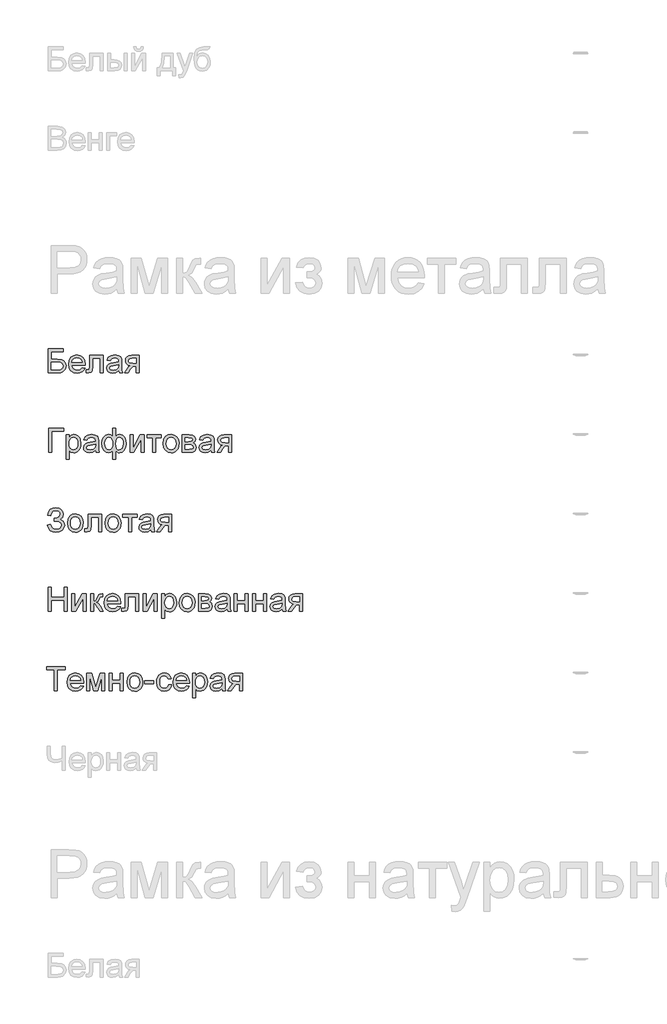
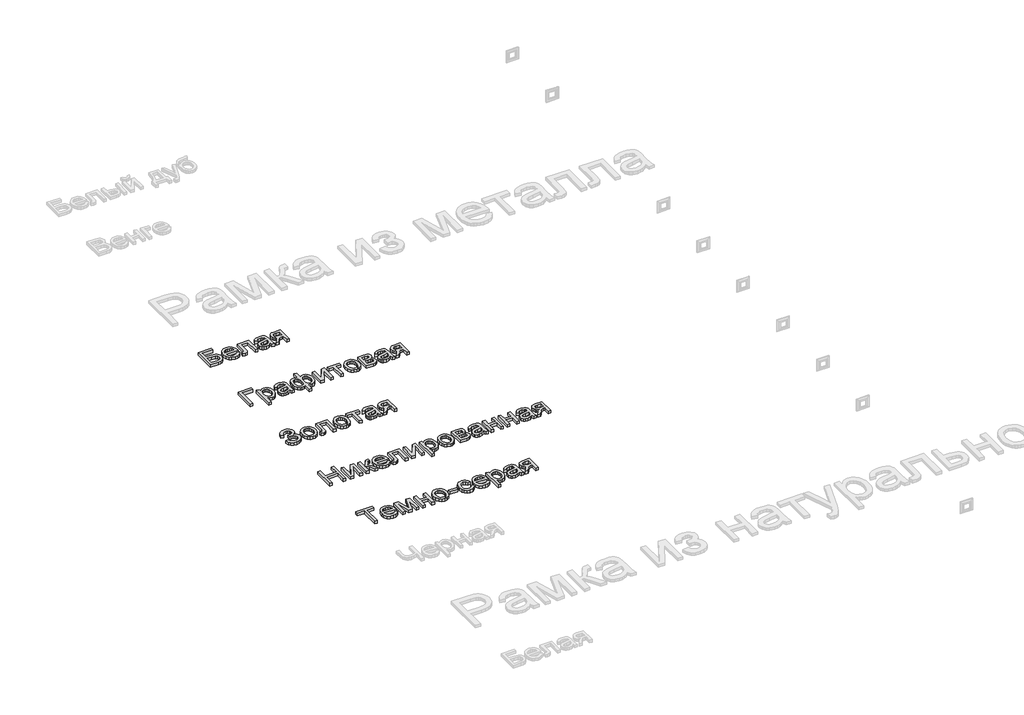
# One storey, part 109 of 168: 5 proxies.
"""IFC4 building model written with IfcOpenShell, lengths in millimetres."""

from ifc_helpers import new_model, si_unit, origin, origin_with_axes, place, context, project, spatial, polyline, outline, extrude, element, save

model = new_model("IFC4")

# Units and contexts
model_context = context("Model", 3, world=origin())
ifc_project = project(units=[si_unit("LENGTHUNIT", "METRE", prefix="MILLI")], contexts=[model_context])

# Site, building, storey
site = spatial("IfcSite", under=ifc_project)
building = spatial("IfcBuilding", under=site)
storey = spatial("IfcBuildingStorey", under=building, Name="Этаж 01", Elevation=0.0)

# Proxies
placement = place(None, origin())
element("IfcBuildingElementProxy", 1, Name="150", ObjectType="150", at=placement, inside=storey, context=model_context, shape_type="SweptSolid", body=[
    extrude(outline(polyline([(32882.6133883, -12897.7212163), (32976.791179, -12897.7212163), (32976.791179, -12916.5567745), (32901.4489464, -12916.5567745), (32901.4489464, -12961.2912251), (32936.7288298, -12961.2912251), (32967.8148584, -12965.1171979), (32978.2167218, -12970.6446248), (32986.3193227, -12979.5749603), (32991.53405, -12991.0712726), (32993.2722924, -13004.2966303), (32988.3242796, -13025.7625448), (32973.5538175, -13042.0781113), (32960.2824745, -13046.823789), (32940.1133441, -13048.4056816), (32882.6133883, -13048.4056816), (32882.6133883, -12897.7212163)]), holes=[polyline([(32901.4489464, -13029.5701234), (32941.8056013, -13029.5701234), (32956.0702257, -13028.015822), (32966.269754, -13023.3529177), (32972.3949892, -13015.5814105), (32974.4367343, -13004.7013005), (32969.7646329, -12989.9492325), (32956.7600044, -12982.0765578), (32928.3779085, -12980.1267833), (32901.4489464, -12980.1267833), (32901.4489464, -13029.5701234)])]), origin_with_axes(), (0.0, 0.0, 1.0), 20.0),
    extrude(outline(polyline([(33094.2926883, -13015.4434548), (33112.7603645, -13017.7978996), (33106.1062989, -13031.713036), (33095.4883048, -13042.1148995), (33081.1455055, -13048.5988196), (33063.3170243, -13050.7601263), (33041.2165134, -13047.0307226), (33024.2111682, -13035.8425114), (33013.3678464, -13017.9220597), (33009.7534058, -12993.9959345), (33013.4046346, -12969.2650674), (33024.358321, -12950.7698), (33041.13374, -12939.2366995), (33062.2501665, -12935.3923327), (33082.709004, -12939.2275025), (33099.0567601, -12950.7330118), (33109.7759218, -12969.191491), (33113.3489756, -12993.8855699), (33113.2386111, -12998.9623414), (33028.588964, -12998.9623414), (33031.8493181, -13013.0614189), (33039.4230887, -13023.4264941), (33050.3537825, -13029.8000497), (33063.6849063, -13031.9245682), (33082.1525825, -13027.9882308), (33094.2926883, -13015.4434548)]), holes=[polyline([(33028.588964, -12980.1267833), (33094.5134175, -12980.1267833), (33091.9658347, -12970.1755753), (33086.9718366, -12963.0570587), (33075.990559, -12956.4351828), (33062.1765901, -12954.2278908), (33049.4800628, -12955.9891259), (33038.9816303, -12961.272831), (33031.6837712, -12969.5087892), (33028.588964, -12980.1267833)])]), origin_with_axes(), (0.0, 0.0, 1.0), 20.0),
    extrude(outline(polyline([(33141.6023129, -12937.7467774), (33226.3623246, -12937.7467774), (33226.3623246, -13048.295317), (33207.5267664, -13048.295317), (33207.5267664, -12956.5823356), (33160.437871, -12956.5823356), (33160.437871, -13009.3734019), (33159.1686781, -13033.72719), (33152.1973143, -13044.0094917), (33135.716201, -13048.4056816), (33120.41231, -13047.4491884), (33120.41231, -13029.5701234), (33128.8368076, -13029.5701234), (33137.3532758, -13028.4112951), (33140.7561843, -13024.7324752), (33141.6023129, -13008.3065441), (33141.6023129, -12937.7467774)])), origin_with_axes(), (0.0, 0.0, 1.0), 20.0),
    extrude(outline(polyline([(33325.2490049, -13034.279013), (33306.9836638, -13047.0445182), (33286.8053364, -13050.7601263), (33271.0645855, -13048.5252432), (33259.45331, -13041.8205939), (33252.2934067, -13031.6394596), (33249.9067723, -13018.975122), (33253.5120158, -13004.0759012), (33262.9849772, -12993.2601705), (33276.1735467, -12987.079753), (33292.4707191, -12984.2470616), (33325.1386403, -12977.7723385), (33325.2490049, -12973.5784838), (33323.9522208, -12965.1723802), (33320.0618687, -12959.6725443), (33311.3614596, -12955.5890542), (33299.2397478, -12954.2278908), (33280.1834605, -12957.8515285), (33271.0967752, -12970.7090042), (33252.261217, -12968.3545594), (33260.4098032, -12949.9604597), (33276.8173402, -12939.1815172), (33301.667769, -12935.3923327), (33324.4948468, -12938.7400588), (33337.3891107, -12947.1461624), (33343.164858, -12959.9300617), (33344.084563, -12976.4111751), (33344.084563, -12999.8452582), (33345.0410562, -13032.5683617), (33348.7934526, -13048.4056816), (33329.9578944, -13048.4056816), (33325.2490049, -13034.279013)]), holes=[polyline([(33325.2490049, -12996.6078966), (33294.8619521, -13002.383644), (33278.6567502, -13005.4370645), (33271.3175044, -13010.4034715), (33268.7423304, -13017.6507468), (33274.3525308, -13027.841078), (33290.8152501, -13031.9245682), (33309.8715375, -13027.4180137), (33322.1587961, -13016.5103126), (33325.1386403, -13001.9421856), (33325.2490049, -12996.6078966)])]), origin_with_axes(), (0.0, 0.0, 1.0), 20.0),
    extrude(outline(polyline([(33454.7434672, -12937.7467774), (33454.7434672, -13048.4056816), (33435.907909, -13048.4056816), (33435.907909, -13006.0256757), (33425.6440014, -13006.0256757), (33411.6644855, -13008.4169087), (33398.5310983, -13024.4933519), (33383.5215129, -13048.4056816), (33361.7428988, -13048.4056816), (33380.6520333, -13018.1657816), (33389.0029546, -13007.3132627), (33396.6916883, -13002.4940086), (33383.8158185, -12998.5484742), (33374.7659214, -12991.0528785), (33369.4132384, -12981.0832765), (33367.6290107, -12969.7157228), (33370.0662289, -12956.8214589), (33377.3778836, -12946.6127335), (33389.3064573, -12939.9632664), (33405.5944326, -12937.7467774), (33454.7434672, -12937.7467774)]), holes=[polyline([(33435.907909, -12956.5823356), (33411.0758743, -12956.5823356), (33398.2505883, -12957.672186), (33390.9711233, -12960.9417372), (33386.4645689, -12971.1504626), (33388.1246364, -12978.32876), (33393.1048389, -12983.3089625), (33416.6308925, -12987.1901176), (33435.907909, -12987.1901176), (33435.907909, -12956.5823356)])]), origin_with_axes(), (0.0, 0.0, 1.0), 20.0),
])
element("IfcBuildingElementProxy", 2, Name="150", ObjectType="150", at=placement, inside=storey, context=model_context, shape_type="SweptSolid", body=[
    extrude(outline(polyline([(32884.967833, -13397.7212163), (32979.1456238, -13397.7212163), (32979.1456238, -13416.5567745), (32903.8033912, -13416.5567745), (32903.8033912, -13548.4056816), (32884.967833, -13548.4056816), (32884.967833, -13397.7212163)])), origin_with_axes(), (0.0, 0.0, 1.0), 20.0),
    extrude(outline(polyline([(32993.2722924, -13590.7856874), (32993.2722924, -13437.7467774), (33012.1078506, -13437.7467774), (33012.1078506, -13456.2144536), (33025.1308732, -13440.5978629), (33042.7156326, -13435.3923327), (33055.4535467, -13437.2133485), (33066.5911741, -13442.6763962), (33075.6594652, -13451.4503817), (33082.1893707, -13463.2042115), (33087.4500832, -13492.2301009), (33085.9647596, -13508.3387338), (33081.508789, -13522.7459124), (33074.2247255, -13534.7204713), (33064.2551234, -13543.5312451), (33052.6438479, -13548.952906), (33040.4347642, -13550.7601263), (33024.0456213, -13545.9224781), (33012.1078506, -13533.6904018), (33012.1078506, -13590.7856874), (32993.2722924, -13590.7856874)]), holes=[polyline([(33012.1078506, -13493.9591463), (33014.1449971, -13510.8449299), (33020.2564368, -13522.6539419), (33029.2741442, -13529.6069116), (33040.030094, -13531.9245682), (33050.9607878, -13529.5241382), (33060.2084214, -13522.3228481), (33066.5129991, -13510.0815747), (33068.614525, -13492.5611947), (33066.5635829, -13475.7673816), (33060.4107565, -13463.7928227), (33051.4068447, -13456.6191238), (33040.8026462, -13454.2278908), (33030.157061, -13456.7708751), (33020.8082598, -13464.399828), (33014.2829529, -13476.8756261), (33012.1078506, -13493.9591463)])]), origin_with_axes(), (0.0, 0.0, 1.0), 20.0),
    extrude(outline(polyline([(33179.2734292, -13534.279013), (33161.0080881, -13547.0445182), (33140.8297607, -13550.7601263), (33125.0890098, -13548.5252432), (33113.4777343, -13541.8205939), (33106.317831, -13531.6394596), (33103.9311966, -13518.975122), (33107.5364401, -13504.0759012), (33117.0094015, -13493.2601705), (33130.197971, -13487.079753), (33146.4951434, -13484.2470616), (33179.1630646, -13477.7723385), (33179.2734292, -13473.5784838), (33177.9766452, -13465.1723802), (33174.0862931, -13459.6725443), (33165.3858839, -13455.5890542), (33153.2641721, -13454.2278908), (33134.2078848, -13457.8515285), (33125.1211995, -13470.7090042), (33106.2856413, -13468.3545594), (33114.4342275, -13449.9604597), (33130.8417645, -13439.1815172), (33155.6921933, -13435.3923327), (33178.5192711, -13438.7400588), (33191.413535, -13447.1461624), (33197.1892823, -13459.9300617), (33198.1089873, -13476.4111751), (33198.1089873, -13499.8452582), (33199.0654805, -13532.5683617), (33202.8178769, -13548.4056816), (33183.9823187, -13548.4056816), (33179.2734292, -13534.279013)]), holes=[polyline([(33179.2734292, -13496.6078966), (33148.8863764, -13502.383644), (33132.6811745, -13505.4370645), (33125.3419287, -13510.4034715), (33122.7667547, -13517.6507468), (33128.3769552, -13527.841078), (33144.8396744, -13531.9245682), (33163.8959618, -13527.4180137), (33176.1832204, -13516.5103126), (33179.1630646, -13501.9421856), (33179.2734292, -13496.6078966)])]), origin_with_axes(), (0.0, 0.0, 1.0), 20.0),
    extrude(outline(polyline([(33287.5778886, -13397.7212163), (33306.4134467, -13397.7212163), (33306.4134467, -13448.3785671), (33318.3880057, -13438.6113001), (33332.4227038, -13435.3923327), (33348.9084157, -13439.4850198), (33361.5773519, -13451.7630814), (33369.6477632, -13470.2491517), (33372.3379003, -13492.9658649), (33369.4408295, -13516.3769554), (33360.7496174, -13534.8124418), (33347.7541859, -13546.7732052), (33331.9444572, -13550.7601263), (33320.4297507, -13548.9207164), (33306.4134467, -13538.8775379), (33306.4134467, -13590.7856874), (33287.5778886, -13590.7856874), (33287.5778886, -13538.8775379), (33275.5481473, -13547.7802822), (33261.3111141, -13550.7601263), (33245.5289765, -13546.9525477), (33231.8805545, -13535.5298117), (33222.4443813, -13517.0161503), (33219.2989903, -13491.9357953), (33222.1454772, -13469.8536785), (33230.684938, -13451.6527168), (33244.0344559, -13439.4574287), (33261.3111141, -13435.3923327), (33275.8976352, -13438.6113001), (33287.5778886, -13448.3785671), (33287.5778886, -13397.7212163)]), holes=[polyline([(33238.1345484, -13491.5311251), (33240.0199436, -13510.0079983), (33245.6761293, -13522.4700009), (33254.1282182, -13529.5609264), (33264.4013229, -13531.9245682), (33274.6238438, -13529.5747219), (33281.8941117, -13522.5251832), (33286.2397178, -13510.775952), (33287.6882532, -13494.3270283), (33286.1661414, -13476.7836556), (33281.5998061, -13464.2526752), (33273.9616562, -13456.7340869), (33263.2241005, -13454.2278908), (33253.1441338, -13456.6743061), (33245.1243063, -13464.0135519), (33239.8819879, -13475.7857757), (33238.1345484, -13491.5311251)]), polyline([(33306.3030821, -13493.4073233), (33307.8711791, -13512.4774062), (33312.5754701, -13524.0702876), (33319.643403, -13529.960998), (33328.3024254, -13531.9245682), (33337.9823204, -13529.5103426), (33346.1263081, -13522.2676658), (33351.6583336, -13509.9390204), (33353.5023421, -13492.2668891), (33351.8008879, -13475.5098642), (33346.6965252, -13463.6456699), (33338.925018, -13456.5823356), (33329.2221304, -13454.2278908), (33319.2295357, -13456.6789046), (33312.0604353, -13464.031946), (33307.7424204, -13476.2778179), (33306.3030821, -13493.4073233)])]), origin_with_axes(), (0.0, 0.0, 1.0), 20.0),
    extrude(outline(polyline([(33395.8823479, -13437.7467774), (33414.7179061, -13437.7467774), (33414.7179061, -13522.1389071), (33460.9974611, -13437.7467774), (33485.3512492, -13437.7467774), (33485.3512492, -13548.4056816), (33466.515691, -13548.4056816), (33466.515691, -13464.5285867), (33420.5304416, -13548.4056816), (33395.8823479, -13548.4056816), (33395.8823479, -13437.7467774)])), origin_with_axes(), (0.0, 0.0, 1.0), 20.0),
    extrude(outline(polyline([(33504.1868073, -13437.7467774), (33593.6557086, -13437.7467774), (33593.6557086, -13456.5823356), (33558.339037, -13456.5823356), (33558.339037, -13548.4056816), (33539.5034789, -13548.4056816), (33539.5034789, -13456.5823356), (33504.1868073, -13456.5823356), (33504.1868073, -13437.7467774)])), origin_with_axes(), (0.0, 0.0, 1.0), 20.0),
    extrude(outline(polyline([(33605.4279324, -13493.0762295), (33609.5022255, -13466.3955878), (33621.7251048, -13447.6428031), (33636.8266607, -13438.4549503), (33654.9080607, -13435.3923327), (33674.6955136, -13439.1217364), (33690.5006438, -13450.3099476), (33700.8611205, -13468.0740494), (33704.3146127, -13491.5311251), (33702.7879024, -13510.5598213), (33698.2077716, -13525.0451749), (33690.7075774, -13535.8930952), (33680.4206771, -13544.0094917), (33668.2023963, -13549.0724677), (33654.9080607, -13550.7601263), (33634.8814846, -13547.0445182), (33619.0947485, -13535.8976937), (33608.8446364, -13517.7611114), (33605.4279324, -13493.0762295)]), holes=[polyline([(33624.2634906, -13493.0394413), (33626.4431914, -13510.0861732), (33632.9822938, -13522.2308776), (33642.8231372, -13529.5011455), (33654.9080607, -13531.9245682), (33666.937802, -13529.48735), (33676.7602513, -13522.1756953), (33683.2993537, -13509.8700426), (33685.4790545, -13492.4508301), (33683.2855582, -13475.9007388), (33676.705069, -13463.9215814), (33666.8688241, -13456.6513134), (33654.9080607, -13454.2278908), (33642.8231372, -13456.6421164), (33632.9822938, -13463.8847932), (33626.4431914, -13476.0019064), (33624.2634906, -13493.0394413)])]), origin_with_axes(), (0.0, 0.0, 1.0), 20.0),
    extrude(outline(polyline([(33725.5046156, -13437.7467774), (33767.0017047, -13437.7467774), (33789.7552061, -13440.2667691), (33802.5574995, -13449.5006072), (33807.9101825, -13465.5954445), (33804.672821, -13478.6736494), (33794.9239481, -13487.999458), (33807.5790887, -13498.2081833), (33812.6190721, -13515.9584896), (33809.4276958, -13530.3150845), (33801.8401296, -13540.4226423), (33789.8287825, -13546.4099217), (33773.3660632, -13548.4056816), (33725.5046156, -13548.4056816), (33725.5046156, -13437.7467774)]), holes=[polyline([(33744.3401738, -13480.1267833), (33762.9550027, -13480.1267833), (33778.314076, -13479.1702901), (33785.7820805, -13475.3443173), (33789.0746244, -13468.4281358), (33787.6306876, -13462.8087383), (33783.2988771, -13459.1942977), (33763.5436139, -13456.5823356), (33744.3401738, -13456.5823356), (33744.3401738, -13480.1267833)]), polyline([(33744.3401738, -13529.5701234), (33767.4431631, -13529.5701234), (33787.9341902, -13526.167215), (33792.1740302, -13521.5273033), (33793.7835139, -13514.4133852), (33790.5645465, -13505.345094), (33782.176837, -13500.0659874), (33765.6037531, -13498.9623414), (33744.3401738, -13498.9623414), (33744.3401738, -13529.5701234)])]), origin_with_axes(), (0.0, 0.0, 1.0), 20.0),
    extrude(outline(polyline([(33906.7968628, -13534.279013), (33888.5315218, -13547.0445182), (33868.3531944, -13550.7601263), (33852.6124435, -13548.5252432), (33841.001168, -13541.8205939), (33833.8412647, -13531.6394596), (33831.4546302, -13518.975122), (33835.0598738, -13504.0759012), (33844.5328352, -13493.2601705), (33857.7214047, -13487.079753), (33874.0185771, -13484.2470616), (33906.6864982, -13477.7723385), (33906.7968628, -13473.5784838), (33905.5000788, -13465.1723802), (33901.6097267, -13459.6725443), (33892.9093175, -13455.5890542), (33880.7876058, -13454.2278908), (33861.7313184, -13457.8515285), (33852.6446332, -13470.7090042), (33833.809075, -13468.3545594), (33841.9576612, -13449.9604597), (33858.3651982, -13439.1815172), (33883.215627, -13435.3923327), (33906.0427048, -13438.7400588), (33918.9369687, -13447.1461624), (33924.712716, -13459.9300617), (33925.632421, -13476.4111751), (33925.632421, -13499.8452582), (33926.5889142, -13532.5683617), (33930.3413105, -13548.4056816), (33911.5057524, -13548.4056816), (33906.7968628, -13534.279013)]), holes=[polyline([(33906.7968628, -13496.6078966), (33876.40981, -13502.383644), (33860.2046082, -13505.4370645), (33852.8653624, -13510.4034715), (33850.2901884, -13517.6507468), (33855.9003888, -13527.841078), (33872.3631081, -13531.9245682), (33891.4193954, -13527.4180137), (33903.7066541, -13516.5103126), (33906.6864982, -13501.9421856), (33906.7968628, -13496.6078966)])]), origin_with_axes(), (0.0, 0.0, 1.0), 20.0),
    extrude(outline(polyline([(34036.2913251, -13437.7467774), (34036.2913251, -13548.4056816), (34017.455767, -13548.4056816), (34017.455767, -13506.0256757), (34007.1918593, -13506.0256757), (33993.2123435, -13508.4169087), (33980.0789563, -13524.4933519), (33965.0693709, -13548.4056816), (33943.2907568, -13548.4056816), (33962.1998913, -13518.1657816), (33970.5508126, -13507.3132627), (33978.2395463, -13502.4940086), (33965.3636765, -13498.5484742), (33956.3137794, -13491.0528785), (33950.9610964, -13481.0832765), (33949.1768687, -13469.7157228), (33951.6140869, -13456.8214589), (33958.9257416, -13446.6127335), (33970.8543153, -13439.9632664), (33987.1422906, -13437.7467774), (34036.2913251, -13437.7467774)]), holes=[polyline([(34017.455767, -13456.5823356), (33992.6237323, -13456.5823356), (33979.7984463, -13457.672186), (33972.5189813, -13460.9417372), (33968.0124268, -13471.1504626), (33969.6724943, -13478.32876), (33974.6526969, -13483.3089625), (33998.1787504, -13487.1901176), (34017.455767, -13487.1901176), (34017.455767, -13456.5823356)])]), origin_with_axes(), (0.0, 0.0, 1.0), 20.0),
])
element("IfcBuildingElementProxy", 3, Name="150", ObjectType="150", at=placement, inside=storey, context=model_context, shape_type="SweptSolid", body=[
    extrude(outline(polyline([(32875.550054, -14006.0256757), (32894.3856121, -14001.3167862), (32905.9555009, -14021.7158428), (32916.8861946, -14029.3723868), (32930.879506, -14031.9245682), (32945.0567584, -14030.0069833), (32955.8770876, -14024.2542286), (32962.7334883, -14015.7883442), (32965.0189552, -14005.7313701), (32962.5219562, -13995.1961495), (32955.030959, -13987.0613589), (32943.2357426, -13981.8604272), (32927.8260855, -13980.1267833), (32917.9300598, -13980.1267833), (32917.9300598, -13961.2912251), (32939.2488214, -13959.7645148), (32952.2902382, -13951.9654165), (32957.9556209, -13937.7099892), (32956.0702257, -13928.8394346), (32950.41404, -13921.2104817), (32941.5388869, -13915.9543677), (32929.9965893, -13914.2023297), (32910.774755, -13919.591801), (32899.7750833, -13933.8840165), (32896.7400569, -13947.1645565), (32877.9044987, -13942.455667), (32883.7561217, -13921.8542752), (32894.358021, -13907.1389954), (32909.7101965, -13898.3098275), (32929.8126483, -13895.3667716), (32949.2046279, -13898.4247907), (32964.1176443, -13907.5988479), (32973.6227954, -13920.8655924), (32976.791179, -13936.201673), (32971.8615603, -13954.8440931), (32957.0727041, -13968.7592296), (32967.5481439, -13973.5830823), (32976.1657796, -13981.7270699), (32981.9323299, -13992.4922168), (32983.8545133, -14005.1795471), (32980.1664963, -14023.0172254), (32969.1024453, -14037.6819214), (32951.9499473, -14047.4905751), (32929.9965893, -14050.7601263), (32910.8943167, -14047.9642232), (32895.4524699, -14039.5765137), (32883.671049, -14025.5969979), (32875.550054, -14006.0256757)])), origin_with_axes(), (0.0, 0.0, 1.0), 20.0),
    extrude(outline(polyline([(33002.6900715, -13993.0762295), (33006.7643646, -13966.3955878), (33018.9872439, -13947.6428031), (33034.0887998, -13938.4549503), (33052.1701999, -13935.3923327), (33071.9576527, -13939.1217364), (33087.7627829, -13950.3099476), (33098.1232596, -13968.0740494), (33101.5767518, -13991.5311251), (33100.0500415, -14010.5598213), (33095.4699107, -14025.0451749), (33087.9697165, -14035.8930952), (33077.6828162, -14044.0094917), (33065.4645355, -14049.0724677), (33052.1701999, -14050.7601263), (33032.1436237, -14047.0445182), (33016.3568876, -14035.8976937), (33006.1067755, -14017.7611114), (33002.6900715, -13993.0762295)]), holes=[polyline([(33021.5256297, -13993.0394413), (33023.7053305, -14010.0861732), (33030.2444329, -14022.2308776), (33040.0852763, -14029.5011455), (33052.1701999, -14031.9245682), (33064.1999411, -14029.48735), (33074.0223904, -14022.1756953), (33080.5614928, -14009.8700426), (33082.7411937, -13992.4508301), (33080.5476973, -13975.9007388), (33073.9672081, -13963.9215814), (33064.1309632, -13956.6513134), (33052.1701999, -13954.2278908), (33040.0852763, -13956.6421164), (33030.2444329, -13963.8847932), (33023.7053305, -13976.0019064), (33021.5256297, -13993.0394413)])]), origin_with_axes(), (0.0, 0.0, 1.0), 20.0),
    extrude(outline(polyline([(33132.1845338, -13937.7467774), (33216.9445455, -13937.7467774), (33216.9445455, -14048.295317), (33198.1089873, -14048.295317), (33198.1089873, -13956.5823356), (33151.020092, -13956.5823356), (33151.020092, -14009.3734019), (33149.7508991, -14033.72719), (33142.7795353, -14044.0094917), (33126.2984219, -14048.4056816), (33110.9945309, -14047.4491884), (33110.9945309, -14029.5701234), (33119.4190286, -14029.5701234), (33127.9354968, -14028.4112951), (33131.3384052, -14024.7324752), (33132.1845338, -14008.3065441), (33132.1845338, -13937.7467774)])), origin_with_axes(), (0.0, 0.0, 1.0), 20.0),
    extrude(outline(polyline([(33240.4889932, -13993.0762295), (33244.5632863, -13966.3955878), (33256.7861656, -13947.6428031), (33271.8877215, -13938.4549503), (33289.9691215, -13935.3923327), (33309.7565743, -13939.1217364), (33325.5617046, -13950.3099476), (33335.9221813, -13968.0740494), (33339.3756735, -13991.5311251), (33337.8489632, -14010.5598213), (33333.2688324, -14025.0451749), (33325.7686382, -14035.8930952), (33315.4817379, -14044.0094917), (33303.2634571, -14049.0724677), (33289.9691215, -14050.7601263), (33269.9425454, -14047.0445182), (33254.1558093, -14035.8976937), (33243.9056972, -14017.7611114), (33240.4889932, -13993.0762295)]), holes=[polyline([(33259.3245513, -13993.0394413), (33261.5042522, -14010.0861732), (33268.0433546, -14022.2308776), (33277.884198, -14029.5011455), (33289.9691215, -14031.9245682), (33301.9988628, -14029.48735), (33311.821312, -14022.1756953), (33318.3604145, -14009.8700426), (33320.5401153, -13992.4508301), (33318.3466189, -13975.9007388), (33311.7661297, -13963.9215814), (33301.9298849, -13956.6513134), (33289.9691215, -13954.2278908), (33277.884198, -13956.6421164), (33268.0433546, -13963.8847932), (33261.5042522, -13976.0019064), (33259.3245513, -13993.0394413)])]), origin_with_axes(), (0.0, 0.0, 1.0), 20.0),
    extrude(outline(polyline([(33351.1478973, -13937.7467774), (33440.6167986, -13937.7467774), (33440.6167986, -13956.5823356), (33405.300127, -13956.5823356), (33405.300127, -14048.4056816), (33386.4645689, -14048.4056816), (33386.4645689, -13956.5823356), (33351.1478973, -13956.5823356), (33351.1478973, -13937.7467774)])), origin_with_axes(), (0.0, 0.0, 1.0), 20.0),
    extrude(outline(polyline([(33527.731255, -14034.279013), (33509.465914, -14047.0445182), (33489.2875865, -14050.7601263), (33473.5468357, -14048.5252432), (33461.9355602, -14041.8205939), (33454.7756568, -14031.6394596), (33452.3890224, -14018.975122), (33455.994266, -14004.0759012), (33465.4672273, -13993.2601705), (33478.6557969, -13987.079753), (33494.9529692, -13984.2470616), (33527.6208904, -13977.7723385), (33527.731255, -13973.5784838), (33526.434471, -13965.1723802), (33522.5441189, -13959.6725443), (33513.8437097, -13955.5890542), (33501.721998, -13954.2278908), (33482.6657106, -13957.8515285), (33473.5790253, -13970.7090042), (33454.7434672, -13968.3545594), (33462.8920534, -13949.9604597), (33479.2995904, -13939.1815172), (33504.1500191, -13935.3923327), (33526.9770969, -13938.7400588), (33539.8713609, -13947.1461624), (33545.6471082, -13959.9300617), (33546.5668132, -13976.4111751), (33546.5668132, -13999.8452582), (33547.5233064, -14032.5683617), (33551.2757027, -14048.4056816), (33532.4401446, -14048.4056816), (33527.731255, -14034.279013)]), holes=[polyline([(33527.731255, -13996.6078966), (33497.3442022, -14002.383644), (33481.1390003, -14005.4370645), (33473.7997545, -14010.4034715), (33471.2245806, -14017.6507468), (33476.834781, -14027.841078), (33493.2975003, -14031.9245682), (33512.3537876, -14027.4180137), (33524.6410463, -14016.5103126), (33527.6208904, -14001.9421856), (33527.731255, -13996.6078966)])]), origin_with_axes(), (0.0, 0.0, 1.0), 20.0),
    extrude(outline(polyline([(33657.2257173, -13937.7467774), (33657.2257173, -14048.4056816), (33638.3901592, -14048.4056816), (33638.3901592, -14006.0256757), (33628.1262515, -14006.0256757), (33614.1467357, -14008.4169087), (33601.0133485, -14024.4933519), (33586.0037631, -14048.4056816), (33564.2251489, -14048.4056816), (33583.1342835, -14018.1657816), (33591.4852048, -14007.3132627), (33599.1739385, -14002.4940086), (33586.2980686, -13998.5484742), (33577.2481716, -13991.0528785), (33571.8954885, -13981.0832765), (33570.1112609, -13969.7157228), (33572.5484791, -13956.8214589), (33579.8601337, -13946.6127335), (33591.7887074, -13939.9632664), (33608.0766828, -13937.7467774), (33657.2257173, -13937.7467774)]), holes=[polyline([(33638.3901592, -13956.5823356), (33613.5581245, -13956.5823356), (33600.7328384, -13957.672186), (33593.4533735, -13960.9417372), (33588.946819, -13971.1504626), (33590.6068865, -13978.32876), (33595.587089, -13983.3089625), (33619.1131426, -13987.1901176), (33638.3901592, -13987.1901176), (33638.3901592, -13956.5823356)])]), origin_with_axes(), (0.0, 0.0, 1.0), 20.0),
])
element("IfcBuildingElementProxy", 4, Name="150", ObjectType="150", at=placement, inside=storey, context=model_context, shape_type="SweptSolid", body=[
    extrude(outline(polyline([(32882.6133883, -14548.4056816), (32882.6133883, -14397.7212163), (32901.4489464, -14397.7212163), (32901.4489464, -14458.9367803), (32981.5000686, -14458.9367803), (32981.5000686, -14397.7212163), (33000.3356267, -14397.7212163), (33000.3356267, -14548.4056816), (32981.5000686, -14548.4056816), (32981.5000686, -14477.7723385), (32901.4489464, -14477.7723385), (32901.4489464, -14548.4056816), (32882.6133883, -14548.4056816)])), origin_with_axes(), (0.0, 0.0, 1.0), 20.0),
    extrude(outline(polyline([(33030.9434087, -14437.7467774), (33049.7789669, -14437.7467774), (33049.7789669, -14522.1389071), (33096.0585219, -14437.7467774), (33120.41231, -14437.7467774), (33120.41231, -14548.4056816), (33101.5767518, -14548.4056816), (33101.5767518, -14464.5285867), (33055.5915024, -14548.4056816), (33030.9434087, -14548.4056816), (33030.9434087, -14437.7467774)])), origin_with_axes(), (0.0, 0.0, 1.0), 20.0),
    extrude(outline(polyline([(33148.6656472, -14437.7467774), (33167.5012053, -14437.7467774), (33167.5012053, -14484.8356728), (33180.1195578, -14481.4511584), (33190.4570418, -14461.7326835), (33199.0470864, -14444.7181412), (33206.6254555, -14439.1815172), (33220.4026362, -14437.7467774), (33224.0078798, -14437.7467774), (33224.0078798, -14456.6927002), (33218.9311083, -14456.5823356), (33209.7340584, -14458.5688983), (33203.2593353, -14470.9665216), (33195.6625721, -14484.3758203), (33185.0123883, -14490.9425139), (33196.8949768, -14498.2725627), (33208.556836, -14513.7144094), (33228.7167693, -14548.4056816), (33207.3060372, -14548.4056816), (33187.5507741, -14514.4501734), (33177.6179602, -14500.0843815), (33167.5012053, -14496.6078966), (33167.5012053, -14548.4056816), (33148.6656472, -14548.4056816), (33148.6656472, -14437.7467774)])), origin_with_axes(), (0.0, 0.0, 1.0), 20.0),
    extrude(outline(polyline([(33317.9649414, -14515.4434548), (33336.4326175, -14517.7978996), (33329.7785519, -14531.713036), (33319.1605579, -14542.1148995), (33304.8177586, -14548.5988196), (33286.9892774, -14550.7601263), (33264.8887665, -14547.0307226), (33247.8834213, -14535.8425114), (33237.0400995, -14517.9220597), (33233.4256589, -14493.9959345), (33237.0768877, -14469.2650674), (33248.0305741, -14450.7698), (33264.8059931, -14439.2366995), (33285.9224196, -14435.3923327), (33306.381257, -14439.2275025), (33322.7290132, -14450.7330118), (33333.4481748, -14469.191491), (33337.0212287, -14493.8855699), (33336.9108641, -14498.9623414), (33252.261217, -14498.9623414), (33255.5215712, -14513.0614189), (33263.0953418, -14523.4264941), (33274.0260356, -14529.8000497), (33287.3571594, -14531.9245682), (33305.8248355, -14527.9882308), (33317.9649414, -14515.4434548)]), holes=[polyline([(33252.261217, -14480.1267833), (33318.1856706, -14480.1267833), (33315.6380877, -14470.1755753), (33310.6440897, -14463.0570587), (33299.6628121, -14456.4351828), (33285.8488432, -14454.2278908), (33273.1523158, -14455.9891259), (33262.6538834, -14461.272831), (33255.3560243, -14469.5087892), (33252.261217, -14480.1267833)])]), origin_with_axes(), (0.0, 0.0, 1.0), 20.0),
    extrude(outline(polyline([(33365.2745659, -14437.7467774), (33450.0345776, -14437.7467774), (33450.0345776, -14548.295317), (33431.1990195, -14548.295317), (33431.1990195, -14456.5823356), (33384.1101241, -14456.5823356), (33384.1101241, -14509.3734019), (33382.8409312, -14533.72719), (33375.8695674, -14544.0094917), (33359.388454, -14548.4056816), (33344.084563, -14547.4491884), (33344.084563, -14529.5701234), (33352.5090607, -14529.5701234), (33361.0255289, -14528.4112951), (33364.4284374, -14524.7324752), (33365.2745659, -14508.3065441), (33365.2745659, -14437.7467774)])), origin_with_axes(), (0.0, 0.0, 1.0), 20.0),
    extrude(outline(polyline([(33478.2879149, -14437.7467774), (33497.123473, -14437.7467774), (33497.123473, -14522.1389071), (33543.403028, -14437.7467774), (33567.7568161, -14437.7467774), (33567.7568161, -14548.4056816), (33548.9212579, -14548.4056816), (33548.9212579, -14464.5285867), (33502.9360085, -14548.4056816), (33478.2879149, -14548.4056816), (33478.2879149, -14437.7467774)])), origin_with_axes(), (0.0, 0.0, 1.0), 20.0),
    extrude(outline(polyline([(33596.0101533, -14590.7856874), (33596.0101533, -14437.7467774), (33614.8457115, -14437.7467774), (33614.8457115, -14456.2144536), (33627.8687341, -14440.5978629), (33645.4534935, -14435.3923327), (33658.1914076, -14437.2133485), (33669.329035, -14442.6763962), (33678.3973261, -14451.4503817), (33684.9272316, -14463.2042115), (33690.1879441, -14492.2301009), (33688.7026205, -14508.3387338), (33684.2466499, -14522.7459124), (33676.9625864, -14534.7204713), (33666.9929843, -14543.5312451), (33655.3817088, -14548.952906), (33643.1726251, -14550.7601263), (33626.7834822, -14545.9224781), (33614.8457115, -14533.6904018), (33614.8457115, -14590.7856874), (33596.0101533, -14590.7856874)]), holes=[polyline([(33614.8457115, -14493.9591463), (33616.882858, -14510.8449299), (33622.9942977, -14522.6539419), (33632.0120051, -14529.6069116), (33642.7679549, -14531.9245682), (33653.6986487, -14529.5241382), (33662.9462823, -14522.3228481), (33669.25086, -14510.0815747), (33671.3523859, -14492.5611947), (33669.3014438, -14475.7673816), (33663.1486174, -14463.7928227), (33654.1447056, -14456.6191238), (33643.5405071, -14454.2278908), (33632.8949219, -14456.7708751), (33623.5461207, -14464.399828), (33617.0208138, -14476.8756261), (33614.8457115, -14493.9591463)])]), origin_with_axes(), (0.0, 0.0, 1.0), 20.0),
    extrude(outline(polyline([(33706.6690575, -14493.0762295), (33710.7433506, -14466.3955878), (33722.9662299, -14447.6428031), (33738.0677858, -14438.4549503), (33756.1491858, -14435.3923327), (33775.9366386, -14439.1217364), (33791.7417689, -14450.3099476), (33802.1022455, -14468.0740494), (33805.5557378, -14491.5311251), (33804.0290275, -14510.5598213), (33799.4488967, -14525.0451749), (33791.9487025, -14535.8930952), (33781.6618022, -14544.0094917), (33769.4435214, -14549.0724677), (33756.1491858, -14550.7601263), (33736.1226097, -14547.0445182), (33720.3358736, -14535.8976937), (33710.0857615, -14517.7611114), (33706.6690575, -14493.0762295)]), holes=[polyline([(33725.5046156, -14493.0394413), (33727.6843164, -14510.0861732), (33734.2234189, -14522.2308776), (33744.0642623, -14529.5011455), (33756.1491858, -14531.9245682), (33768.1789271, -14529.48735), (33778.0013763, -14522.1756953), (33784.5404788, -14509.8700426), (33786.7201796, -14492.4508301), (33784.5266832, -14475.9007388), (33777.946194, -14463.9215814), (33768.1099492, -14456.6513134), (33756.1491858, -14454.2278908), (33744.0642623, -14456.6421164), (33734.2234189, -14463.8847932), (33727.6843164, -14476.0019064), (33725.5046156, -14493.0394413)])]), origin_with_axes(), (0.0, 0.0, 1.0), 20.0),
    extrude(outline(polyline([(33826.7457407, -14437.7467774), (33868.2428298, -14437.7467774), (33890.9963312, -14440.2667691), (33903.7986246, -14449.5006072), (33909.1513076, -14465.5954445), (33905.9139461, -14478.6736494), (33896.1650732, -14487.999458), (33908.8202138, -14498.2081833), (33913.8601972, -14515.9584896), (33910.6688208, -14530.3150845), (33903.0812547, -14540.4226423), (33891.0699076, -14546.4099217), (33874.6071883, -14548.4056816), (33826.7457407, -14548.4056816), (33826.7457407, -14437.7467774)]), holes=[polyline([(33845.5812988, -14480.1267833), (33864.1961278, -14480.1267833), (33879.5552011, -14479.1702901), (33887.0232056, -14475.3443173), (33890.3157495, -14468.4281358), (33888.8718126, -14462.8087383), (33884.5400021, -14459.1942977), (33864.784739, -14456.5823356), (33845.5812988, -14456.5823356), (33845.5812988, -14480.1267833)]), polyline([(33845.5812988, -14529.5701234), (33868.6842881, -14529.5701234), (33889.1753153, -14526.167215), (33893.4151553, -14521.5273033), (33895.024639, -14514.4133852), (33891.8056715, -14505.345094), (33883.4179621, -14500.0659874), (33866.8448782, -14498.9623414), (33845.5812988, -14498.9623414), (33845.5812988, -14529.5701234)])]), origin_with_axes(), (0.0, 0.0, 1.0), 20.0),
    extrude(outline(polyline([(34008.0379879, -14534.279013), (33989.7726469, -14547.0445182), (33969.5943194, -14550.7601263), (33953.8535686, -14548.5252432), (33942.2422931, -14541.8205939), (33935.0823898, -14531.6394596), (33932.6957553, -14518.975122), (33936.3009989, -14504.0759012), (33945.7739602, -14493.2601705), (33958.9625298, -14487.079753), (33975.2597021, -14484.2470616), (34007.9276233, -14477.7723385), (34008.0379879, -14473.5784838), (34006.7412039, -14465.1723802), (34002.8508518, -14459.6725443), (33994.1504426, -14455.5890542), (33982.0287309, -14454.2278908), (33962.9724435, -14457.8515285), (33953.8857582, -14470.7090042), (33935.0502001, -14468.3545594), (33943.1987863, -14449.9604597), (33959.6063233, -14439.1815172), (33984.456752, -14435.3923327), (34007.2838298, -14438.7400588), (34020.1780938, -14447.1461624), (34025.9538411, -14459.9300617), (34026.8735461, -14476.4111751), (34026.8735461, -14499.8452582), (34027.8300393, -14532.5683617), (34031.5824356, -14548.4056816), (34012.7468775, -14548.4056816), (34008.0379879, -14534.279013)]), holes=[polyline([(34008.0379879, -14496.6078966), (33977.6509351, -14502.383644), (33961.4457332, -14505.4370645), (33954.1064874, -14510.4034715), (33951.5313135, -14517.6507468), (33957.1415139, -14527.841078), (33973.6042332, -14531.9245682), (33992.6605205, -14527.4180137), (34004.9477792, -14516.5103126), (34007.9276233, -14501.9421856), (34008.0379879, -14496.6078966)])]), origin_with_axes(), (0.0, 0.0, 1.0), 20.0),
    extrude(outline(polyline([(34052.7724385, -14437.7467774), (34071.6079967, -14437.7467774), (34071.6079967, -14480.1267833), (34121.0513368, -14480.1267833), (34121.0513368, -14437.7467774), (34139.886895, -14437.7467774), (34139.886895, -14548.4056816), (34121.0513368, -14548.4056816), (34121.0513368, -14498.9623414), (34071.6079967, -14498.9623414), (34071.6079967, -14548.4056816), (34052.7724385, -14548.4056816), (34052.7724385, -14437.7467774)])), origin_with_axes(), (0.0, 0.0, 1.0), 20.0),
    extrude(outline(polyline([(34168.1402322, -14437.7467774), (34186.9757904, -14437.7467774), (34186.9757904, -14480.1267833), (34236.4191305, -14480.1267833), (34236.4191305, -14437.7467774), (34255.2546887, -14437.7467774), (34255.2546887, -14548.4056816), (34236.4191305, -14548.4056816), (34236.4191305, -14498.9623414), (34186.9757904, -14498.9623414), (34186.9757904, -14548.4056816), (34168.1402322, -14548.4056816), (34168.1402322, -14437.7467774)])), origin_with_axes(), (0.0, 0.0, 1.0), 20.0),
    extrude(outline(polyline([(34354.141369, -14534.279013), (34335.8760279, -14547.0445182), (34315.6977005, -14550.7601263), (34299.9569496, -14548.5252432), (34288.3456741, -14541.8205939), (34281.1857708, -14531.6394596), (34278.7991364, -14518.975122), (34282.4043799, -14504.0759012), (34291.8773413, -14493.2601705), (34305.0659108, -14487.079753), (34321.3630832, -14484.2470616), (34354.0310044, -14477.7723385), (34354.141369, -14473.5784838), (34352.8445849, -14465.1723802), (34348.9542328, -14459.6725443), (34340.2538237, -14455.5890542), (34328.1321119, -14454.2278908), (34309.0758246, -14457.8515285), (34299.9891393, -14470.7090042), (34281.1535811, -14468.3545594), (34289.3021673, -14449.9604597), (34305.7097043, -14439.1815172), (34330.5601331, -14435.3923327), (34353.3872109, -14438.7400588), (34366.2814748, -14447.1461624), (34372.0572221, -14459.9300617), (34372.9769271, -14476.4111751), (34372.9769271, -14499.8452582), (34373.9334203, -14532.5683617), (34377.6858167, -14548.4056816), (34358.8502585, -14548.4056816), (34354.141369, -14534.279013)]), holes=[polyline([(34354.141369, -14496.6078966), (34323.7543162, -14502.383644), (34307.5491143, -14505.4370645), (34300.2098685, -14510.4034715), (34297.6346945, -14517.6507468), (34303.2448949, -14527.841078), (34319.7076142, -14531.9245682), (34338.7639016, -14527.4180137), (34351.0511602, -14516.5103126), (34354.0310044, -14501.9421856), (34354.141369, -14496.6078966)])]), origin_with_axes(), (0.0, 0.0, 1.0), 20.0),
    extrude(outline(polyline([(34483.6358313, -14437.7467774), (34483.6358313, -14548.4056816), (34464.8002731, -14548.4056816), (34464.8002731, -14506.0256757), (34454.5363655, -14506.0256757), (34440.5568496, -14508.4169087), (34427.4234624, -14524.4933519), (34412.413877, -14548.4056816), (34390.6352629, -14548.4056816), (34409.5443975, -14518.1657816), (34417.8953187, -14507.3132627), (34425.5840524, -14502.4940086), (34412.7081826, -14498.5484742), (34403.6582855, -14491.0528785), (34398.3056025, -14481.0832765), (34396.5213748, -14469.7157228), (34398.958593, -14456.8214589), (34406.2702477, -14446.6127335), (34418.1988214, -14439.9632664), (34434.4867967, -14437.7467774), (34483.6358313, -14437.7467774)]), holes=[polyline([(34464.8002731, -14456.5823356), (34439.9682385, -14456.5823356), (34427.1429524, -14457.672186), (34419.8634874, -14460.9417372), (34415.356933, -14471.1504626), (34417.0170005, -14478.32876), (34421.997203, -14483.3089625), (34445.5232566, -14487.1901176), (34464.8002731, -14487.1901176), (34464.8002731, -14456.5823356)])]), origin_with_axes(), (0.0, 0.0, 1.0), 20.0),
])
element("IfcBuildingElementProxy", 5, Name="150", ObjectType="150", at=placement, inside=storey, context=model_context, shape_type="SweptSolid", body=[
    extrude(outline(polyline([(32920.2845046, -15048.4056816), (32920.2845046, -14916.5567745), (32870.8411644, -14916.5567745), (32870.8411644, -14897.7212163), (32988.5634029, -14897.7212163), (32988.5634029, -14916.5567745), (32939.1200627, -14916.5567745), (32939.1200627, -15048.4056816), (32920.2845046, -15048.4056816)])), origin_with_axes(), (0.0, 0.0, 1.0), 20.0),
    extrude(outline(polyline([(33084.8749092, -15015.4434548), (33103.3425854, -15017.7978996), (33096.6885198, -15031.713036), (33086.0705257, -15042.1148995), (33071.7277264, -15048.5988196), (33053.8992452, -15050.7601263), (33031.7987344, -15047.0307226), (33014.7933891, -15035.8425114), (33003.9500673, -15017.9220597), (33000.3356267, -14993.9959345), (33003.9868555, -14969.2650674), (33014.9405419, -14950.7698), (33031.7159609, -14939.2366995), (33052.8323874, -14935.3923327), (33073.2912249, -14939.2275025), (33089.6389811, -14950.7330118), (33100.3581427, -14969.191491), (33103.9311966, -14993.8855699), (33103.820832, -14998.9623414), (33019.1711849, -14998.9623414), (33022.4315391, -15013.0614189), (33030.0053096, -15023.4264941), (33040.9360034, -15029.8000497), (33054.2671272, -15031.9245682), (33072.7348034, -15027.9882308), (33084.8749092, -15015.4434548)]), holes=[polyline([(33019.1711849, -14980.1267833), (33085.0956384, -14980.1267833), (33082.5480556, -14970.1755753), (33077.5540575, -14963.0570587), (33066.57278, -14956.4351828), (33052.758811, -14954.2278908), (33040.0622837, -14955.9891259), (33029.5638512, -14961.272831), (33022.2659922, -14969.5087892), (33019.1711849, -14980.1267833)])]), origin_with_axes(), (0.0, 0.0, 1.0), 20.0),
    extrude(outline(polyline([(33122.7667547, -14937.7467774), (33155.1771585, -14937.7467774), (33180.156346, -15026.3327619), (33207.085308, -14937.7467774), (33238.1345484, -14937.7467774), (33238.1345484, -15048.4056816), (33219.2989903, -15048.4056816), (33219.2989903, -14959.3046623), (33192.2228754, -15048.4056816), (33167.5012053, -15048.4056816), (33141.6023129, -14955.0372312), (33141.6023129, -15048.4056816), (33122.7667547, -15048.4056816), (33122.7667547, -14937.7467774)])), origin_with_axes(), (0.0, 0.0, 1.0), 20.0),
    extrude(outline(polyline([(33266.3878856, -14937.7467774), (33285.2234438, -14937.7467774), (33285.2234438, -14980.1267833), (33334.6667839, -14980.1267833), (33334.6667839, -14937.7467774), (33353.5023421, -14937.7467774), (33353.5023421, -15048.4056816), (33334.6667839, -15048.4056816), (33334.6667839, -14998.9623414), (33285.2234438, -14998.9623414), (33285.2234438, -15048.4056816), (33266.3878856, -15048.4056816), (33266.3878856, -14937.7467774)])), origin_with_axes(), (0.0, 0.0, 1.0), 20.0),
    extrude(outline(polyline([(33377.0467898, -14993.0762295), (33381.1210829, -14966.3955878), (33393.3439622, -14947.6428031), (33408.4455181, -14938.4549503), (33426.5269181, -14935.3923327), (33446.314371, -14939.1217364), (33462.1195012, -14950.3099476), (33472.4799779, -14968.0740494), (33475.9334701, -14991.5311251), (33474.4067598, -15010.5598213), (33469.826629, -15025.0451749), (33462.3264348, -15035.8930952), (33452.0395345, -15044.0094917), (33439.8212537, -15049.0724677), (33426.5269181, -15050.7601263), (33406.500342, -15047.0445182), (33390.7136059, -15035.8976937), (33380.4634938, -15017.7611114), (33377.0467898, -14993.0762295)]), holes=[polyline([(33395.8823479, -14993.0394413), (33398.0620488, -15010.0861732), (33404.6011512, -15022.2308776), (33414.4419946, -15029.5011455), (33426.5269181, -15031.9245682), (33438.5566594, -15029.48735), (33448.3791087, -15022.1756953), (33454.9182111, -15009.8700426), (33457.0979119, -14992.4508301), (33454.9044155, -14975.9007388), (33448.3239264, -14963.9215814), (33438.4876815, -14956.6513134), (33426.5269181, -14954.2278908), (33414.4419946, -14956.6421164), (33404.6011512, -14963.8847932), (33398.0620488, -14976.0019064), (33395.8823479, -14993.0394413)])]), origin_with_axes(), (0.0, 0.0, 1.0), 20.0),
    extrude(outline(polyline([(33487.7056939, -15003.671231), (33487.7056939, -14984.8356728), (33546.5668132, -14984.8356728), (33546.5668132, -15003.671231), (33487.7056939, -15003.671231)])), origin_with_axes(), (0.0, 0.0, 1.0), 20.0),
    extrude(outline(polyline([(33638.3901592, -15008.3801205), (33657.2257173, -15010.7345653), (33651.9742018, -15027.4869916), (33642.1057673, -15040.1467308), (33628.5493158, -15048.1067774), (33612.2337493, -15050.7601263), (33592.1979761, -15047.0583138), (33576.5308017, -15035.952876), (33566.4186453, -15017.9312568), (33563.0479266, -14993.4808997), (33564.4872649, -14976.7192763), (33568.8052798, -14962.192536), (33576.0709492, -14950.4616989), (33586.3532509, -14942.087785), (33598.6543052, -14937.0661957), (33611.9762319, -14935.3923327), (33627.8917267, -14937.6915951), (33640.6158452, -14944.5893825), (33649.7439172, -14955.7178129), (33654.8712725, -14970.7090042), (33636.0357144, -14973.063449), (33627.298517, -14958.9551744), (33612.1233847, -14954.2278908), (33599.9510892, -14956.5547444), (33590.2895883, -14963.5353053), (33583.9850106, -14975.5466524), (33581.8834847, -14992.9658649), (33583.9390254, -15010.6196021), (33590.1056473, -15022.672336), (33599.5924042, -15029.6115101), (33611.6083499, -15031.9245682), (33621.3618213, -15030.4806314), (33629.3586562, -15026.1488209), (33635.1757902, -15018.8187721), (33638.3901592, -15008.3801205)])), origin_with_axes(), (0.0, 0.0, 1.0), 20.0),
    extrude(outline(polyline([(33751.1827789, -15015.4434548), (33769.650455, -15017.7978996), (33762.9963895, -15031.713036), (33752.3783954, -15042.1148995), (33738.0355961, -15048.5988196), (33720.2071149, -15050.7601263), (33698.106604, -15047.0307226), (33681.1012588, -15035.8425114), (33670.257937, -15017.9220597), (33666.6434964, -14993.9959345), (33670.2947252, -14969.2650674), (33681.2484116, -14950.7698), (33698.0238306, -14939.2366995), (33719.1402571, -14935.3923327), (33739.5990946, -14939.2275025), (33755.9468507, -14950.7330118), (33766.6660124, -14969.191491), (33770.2390662, -14993.8855699), (33770.1287016, -14998.9623414), (33685.4790545, -14998.9623414), (33688.7394087, -15013.0614189), (33696.3131793, -15023.4264941), (33707.2438731, -15029.8000497), (33720.5749969, -15031.9245682), (33739.042673, -15027.9882308), (33751.1827789, -15015.4434548)]), holes=[polyline([(33685.4790545, -14980.1267833), (33751.4035081, -14980.1267833), (33748.8559253, -14970.1755753), (33743.8619272, -14963.0570587), (33732.8806496, -14956.4351828), (33719.0666807, -14954.2278908), (33706.3701533, -14955.9891259), (33695.8717209, -14961.272831), (33688.5738618, -14969.5087892), (33685.4790545, -14980.1267833)])]), origin_with_axes(), (0.0, 0.0, 1.0), 20.0),
    extrude(outline(polyline([(33789.0746244, -15090.7856874), (33789.0746244, -14937.7467774), (33807.9101825, -14937.7467774), (33807.9101825, -14956.2144536), (33820.9332052, -14940.5978629), (33838.5179645, -14935.3923327), (33851.2558786, -14937.2133485), (33862.393506, -14942.6763962), (33871.4617972, -14951.4503817), (33877.9917026, -14963.2042115), (33883.2524152, -14992.2301009), (33881.7670916, -15008.3387338), (33877.3111209, -15022.7459124), (33870.0270574, -15034.7204713), (33860.0574554, -15043.5312451), (33848.4461799, -15048.952906), (33836.2370962, -15050.7601263), (33819.8479533, -15045.9224781), (33807.9101825, -15033.6904018), (33807.9101825, -15090.7856874), (33789.0746244, -15090.7856874)]), holes=[polyline([(33807.9101825, -14993.9591463), (33809.9473291, -15010.8449299), (33816.0587687, -15022.6539419), (33825.0764761, -15029.6069116), (33835.832426, -15031.9245682), (33846.7631198, -15029.5241382), (33856.0107534, -15022.3228481), (33862.3153311, -15010.0815747), (33864.416857, -14992.5611947), (33862.3659149, -14975.7673816), (33856.2130885, -14963.7928227), (33847.2091767, -14956.6191238), (33836.6049782, -14954.2278908), (33825.9593929, -14956.7708751), (33816.6105917, -14964.399828), (33810.0852848, -14976.8756261), (33807.9101825, -14993.9591463)])]), origin_with_axes(), (0.0, 0.0, 1.0), 20.0),
    extrude(outline(polyline([(33975.0757612, -15034.279013), (33956.8104201, -15047.0445182), (33936.6320927, -15050.7601263), (33920.8913418, -15048.5252432), (33909.2800663, -15041.8205939), (33902.120163, -15031.6394596), (33899.7335285, -15018.975122), (33903.3387721, -15004.0759012), (33912.8117335, -14993.2601705), (33926.000303, -14987.079753), (33942.2974754, -14984.2470616), (33974.9653966, -14977.7723385), (33975.0757612, -14973.5784838), (33973.7789771, -14965.1723802), (33969.888625, -14959.6725443), (33961.1882158, -14955.5890542), (33949.0665041, -14954.2278908), (33930.0102167, -14957.8515285), (33920.9235315, -14970.7090042), (33902.0879733, -14968.3545594), (33910.2365595, -14949.9604597), (33926.6440965, -14939.1815172), (33951.4945253, -14935.3923327), (33974.3216031, -14938.7400588), (33987.215867, -14947.1461624), (33992.9916143, -14959.9300617), (33993.9113193, -14976.4111751), (33993.9113193, -14999.8452582), (33994.8678125, -15032.5683617), (33998.6202088, -15048.4056816), (33979.7846507, -15048.4056816), (33975.0757612, -15034.279013)]), holes=[polyline([(33975.0757612, -14996.6078966), (33944.6887083, -15002.383644), (33928.4835065, -15005.4370645), (33921.1442607, -15010.4034715), (33918.5690867, -15017.6507468), (33924.1792871, -15027.841078), (33940.6420064, -15031.9245682), (33959.6982938, -15027.4180137), (33971.9855524, -15016.5103126), (33974.9653966, -15001.9421856), (33975.0757612, -14996.6078966)])]), origin_with_axes(), (0.0, 0.0, 1.0), 20.0),
    extrude(outline(polyline([(34104.5702235, -14937.7467774), (34104.5702235, -15048.4056816), (34085.7346653, -15048.4056816), (34085.7346653, -15006.0256757), (34075.4707576, -15006.0256757), (34061.4912418, -15008.4169087), (34048.3578546, -15024.4933519), (34033.3482692, -15048.4056816), (34011.5696551, -15048.4056816), (34030.4787896, -15018.1657816), (34038.8297109, -15007.3132627), (34046.5184446, -15002.4940086), (34033.6425748, -14998.5484742), (34024.5926777, -14991.0528785), (34019.2399947, -14981.0832765), (34017.455767, -14969.7157228), (34019.8929852, -14956.8214589), (34027.2046399, -14946.6127335), (34039.1332136, -14939.9632664), (34055.4211889, -14937.7467774), (34104.5702235, -14937.7467774)]), holes=[polyline([(34085.7346653, -14956.5823356), (34060.9026306, -14956.5823356), (34048.0773446, -14957.672186), (34040.7978796, -14960.9417372), (34036.2913251, -14971.1504626), (34037.9513927, -14978.32876), (34042.9315952, -14983.3089625), (34066.4576488, -14987.1901176), (34085.7346653, -14987.1901176), (34085.7346653, -14956.5823356)])]), origin_with_axes(), (0.0, 0.0, 1.0), 20.0),
])

save(model, "model.ifc")
